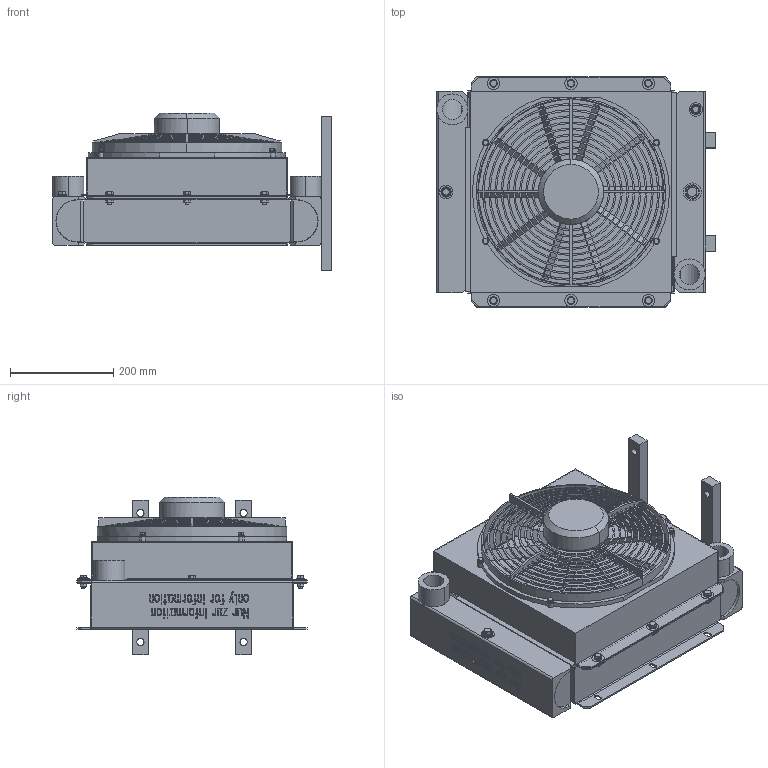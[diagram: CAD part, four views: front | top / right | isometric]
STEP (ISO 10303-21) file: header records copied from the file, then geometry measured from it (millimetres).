
FILE_DESCRIPTION((' '),'1');
FILE_NAME('5204.202.0000.step','2007-09-12 T',(' '),(' '),'STEP Interface v1.0 by CT CoreTechnologie','3D_Evolution v1.0 by CT CoreTechnologie',' ');
FILE_SCHEMA(('AUTOMOTIVE_DESIGN_CC2 { 1 2 10303 214 -1 1 5 2 }'));
Length unit declared in the file: millimetre
Products named in the file (54): 5204_202_0000; Sechskantschraube_ISO_4017-M6x16-8_8-A3B; 603503; 603803; 8407_304_0168; 5203_201_40101; m61; m62; m63; m64; m65; m66; m67; m68; 5203_201_40102; 6004041; 6004042; 6004043; 6004044; 603505; 5205_104_00101; 5205_104_00102; 6030041; 6030042; 6030043; 6030044; 6030045; 6030046; 603857; M8x20_+_DIN_127_+_ISO_7093; 603504; Sechskantschraube_ISO_4017-M8x20-8_8-A3B; 5204_202_1000; 603250; 603666; 603241; 603295; 6036551; 6036552; 5204_202_13001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
Assembly tree (76 placements, depth 4):
  5204_202_0000
    Sechskantschraube_ISO_4017-M6x16-8_8-A3B  x4
    603503  x4
    603803  x4
    8407_304_0168
    5203_201_40101
      m61
      m62
      m63
      m64
      m65
      m66
      m67
      m68
      5203_201_40102
    6004041
    6004042
    6004043
    6004044
    603505  x4
    5205_104_00101
    5205_104_00102
    6030041
    6030042
    6030043
    6030044
    6030045
    6030046
    603857  x6
    M8x20_+_DIN_127_+_ISO_7093  x6
      603857
      603504
      Sechskantschraube_ISO_4017-M8x20-8_8-A3B
    5204_202_1000
      603250
      603666
      603241
      603295
      6036551
      6036552
      5204_202_13001
        5204_202_13002
        8423_220_00001
        8421_603_0000_11
        8421_603_0000_12
      5204_202_12001
        8423_220_00002
        8423_217_0000
        8421_603_0000_13
        8421_603_0000_14
        5204_202_12002
      5204_202_11001
        8560_373_00231
        8560_373_00232
        5204_202_11002
Bounding box: 540.5 x 445.89 x 306 mm (x, y, z)
Volume: 18228229.8 mm3; surface area: 1883974.2 mm2
Topology: 80 solids, 80 shells, 2157 faces, 5394 edges, 3474 vertices
Faces by surface type: plane 1145, cylinder 494, cone 328, torus 104, bspline 86
Entity records: 74567 total; most frequent: CARTESIAN_POINT 14599, ORIENTED_EDGE 9118, DIRECTION 8968, EDGE_CURVE 4559, AXIS2_PLACEMENT_3D 2998, VECTOR 2972, LINE 2972, VERTEX_POINT 2952
